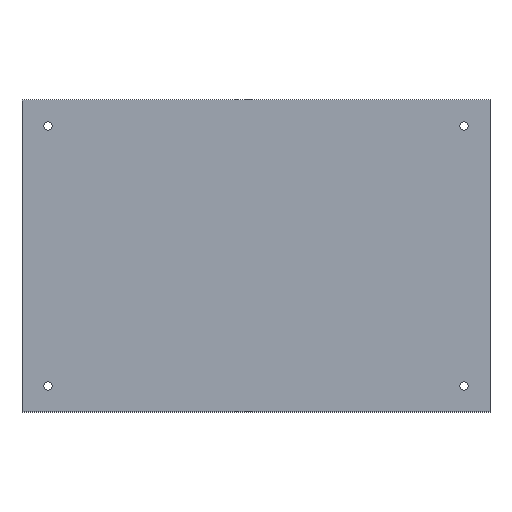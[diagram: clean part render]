
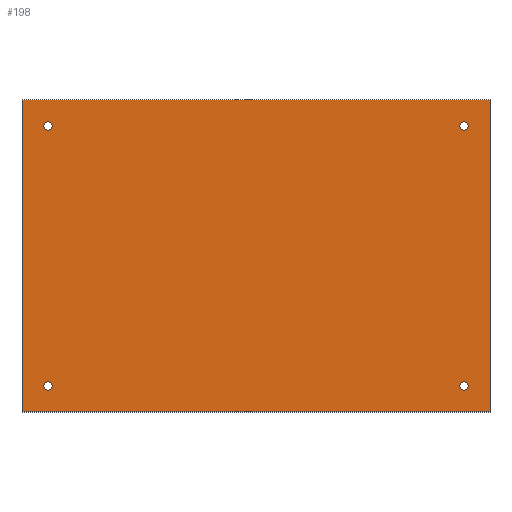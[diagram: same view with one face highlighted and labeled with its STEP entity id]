
A CAD part, top view. The second image highlights one B-rep face of the part: STEP entity #198.
In plain terms, the highlighted planar face has unit normal (0, 0, 1).
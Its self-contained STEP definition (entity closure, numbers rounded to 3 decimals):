
#42 = VERTEX_POINT('',#43);
#43 = CARTESIAN_POINT('',(180.,-120.,1.51));
#49 = EDGE_CURVE('',#42,#50,#52,.T.);
#50 = VERTEX_POINT('',#51);
#51 = CARTESIAN_POINT('',(0.,-120.,1.51));
#52 = LINE('',#53,#54);
#53 = CARTESIAN_POINT('',(180.,-120.,1.51));
#54 = VECTOR('',#55,1.);
#55 = DIRECTION('',(-1.,0.,0.));
#82 = VERTEX_POINT('',#83);
#83 = CARTESIAN_POINT('',(180.,0.,1.51));
#89 = EDGE_CURVE('',#82,#42,#90,.T.);
#90 = LINE('',#91,#92);
#91 = CARTESIAN_POINT('',(180.,0.,1.51));
#92 = VECTOR('',#93,1.);
#93 = DIRECTION('',(0.,-1.,0.));
#111 = EDGE_CURVE('',#50,#112,#114,.T.);
#112 = VERTEX_POINT('',#113);
#113 = CARTESIAN_POINT('',(0.,0.,1.51));
#114 = LINE('',#115,#116);
#115 = CARTESIAN_POINT('',(0.,-120.,1.51));
#116 = VECTOR('',#117,1.);
#117 = DIRECTION('',(0.,1.,0.));
#198 = ADVANCED_FACE('',(#199,#210,#221,#232,#243),#254,.T.);
#199 = FACE_BOUND('',#200,.T.);
#200 = EDGE_LOOP('',(#201,#202,#203,#209));
#201 = ORIENTED_EDGE('',*,*,#49,.F.);
#202 = ORIENTED_EDGE('',*,*,#89,.F.);
#203 = ORIENTED_EDGE('',*,*,#204,.F.);
#204 = EDGE_CURVE('',#112,#82,#205,.T.);
#205 = LINE('',#206,#207);
#206 = CARTESIAN_POINT('',(0.,0.,1.51));
#207 = VECTOR('',#208,1.);
#208 = DIRECTION('',(1.,0.,0.));
#209 = ORIENTED_EDGE('',*,*,#111,.F.);
#210 = FACE_BOUND('',#211,.T.);
#211 = EDGE_LOOP('',(#212));
#212 = ORIENTED_EDGE('',*,*,#213,.T.);
#213 = EDGE_CURVE('',#214,#214,#216,.T.);
#214 = VERTEX_POINT('',#215);
#215 = CARTESIAN_POINT('',(10.,-111.6,1.51));
#216 = CIRCLE('',#217,1.6);
#217 = AXIS2_PLACEMENT_3D('',#218,#219,#220);
#218 = CARTESIAN_POINT('',(10.,-110.,1.51));
#219 = DIRECTION('',(-0.,0.,-1.));
#220 = DIRECTION('',(-0.,-1.,0.));
#221 = FACE_BOUND('',#222,.T.);
#222 = EDGE_LOOP('',(#223));
#223 = ORIENTED_EDGE('',*,*,#224,.T.);
#224 = EDGE_CURVE('',#225,#225,#227,.T.);
#225 = VERTEX_POINT('',#226);
#226 = CARTESIAN_POINT('',(170.,-111.6,1.51));
#227 = CIRCLE('',#228,1.6);
#228 = AXIS2_PLACEMENT_3D('',#229,#230,#231);
#229 = CARTESIAN_POINT('',(170.,-110.,1.51));
#230 = DIRECTION('',(-0.,0.,-1.));
#231 = DIRECTION('',(-0.,-1.,0.));
#232 = FACE_BOUND('',#233,.T.);
#233 = EDGE_LOOP('',(#234));
#234 = ORIENTED_EDGE('',*,*,#235,.T.);
#235 = EDGE_CURVE('',#236,#236,#238,.T.);
#236 = VERTEX_POINT('',#237);
#237 = CARTESIAN_POINT('',(10.,-11.6,1.51));
#238 = CIRCLE('',#239,1.6);
#239 = AXIS2_PLACEMENT_3D('',#240,#241,#242);
#240 = CARTESIAN_POINT('',(10.,-10.,1.51));
#241 = DIRECTION('',(-0.,0.,-1.));
#242 = DIRECTION('',(-0.,-1.,0.));
#243 = FACE_BOUND('',#244,.T.);
#244 = EDGE_LOOP('',(#245));
#245 = ORIENTED_EDGE('',*,*,#246,.T.);
#246 = EDGE_CURVE('',#247,#247,#249,.T.);
#247 = VERTEX_POINT('',#248);
#248 = CARTESIAN_POINT('',(170.,-11.6,1.51));
#249 = CIRCLE('',#250,1.6);
#250 = AXIS2_PLACEMENT_3D('',#251,#252,#253);
#251 = CARTESIAN_POINT('',(170.,-10.,1.51));
#252 = DIRECTION('',(-0.,0.,-1.));
#253 = DIRECTION('',(-0.,-1.,0.));
#254 = PLANE('',#255);
#255 = AXIS2_PLACEMENT_3D('',#256,#257,#258);
#256 = CARTESIAN_POINT('',(0.,0.,1.51));
#257 = DIRECTION('',(0.,0.,1.));
#258 = DIRECTION('',(1.,0.,-0.));
